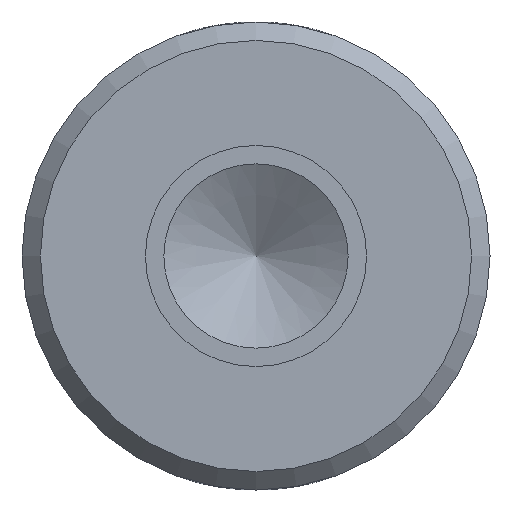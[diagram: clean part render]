
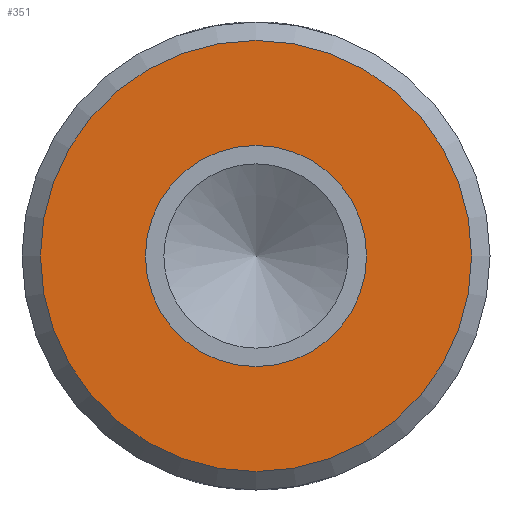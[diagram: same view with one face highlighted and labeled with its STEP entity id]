
A CAD part, front view. The second image highlights one B-rep face of the part: STEP entity #351.
In plain terms, the highlighted planar face has unit normal (0, -1, 0).
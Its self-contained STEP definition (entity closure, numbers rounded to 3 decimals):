
#6 = CARTESIAN_POINT ( 'NONE',  ( 0., 0., 5.85 ) ) ;
#9 = CARTESIAN_POINT ( 'NONE',  ( 0., 0., -3. ) ) ;
#99 = DIRECTION ( 'NONE',  ( 0., 0., 1. ) ) ;
#100 = DIRECTION ( 'NONE',  ( 0., -1., 0. ) ) ;
#101 = CARTESIAN_POINT ( 'NONE',  ( 0., 0., 0. ) ) ;
#109 = DIRECTION ( 'NONE',  ( 0., 0., -1. ) ) ;
#110 = DIRECTION ( 'NONE',  ( 0., -1., 0. ) ) ;
#111 = CARTESIAN_POINT ( 'NONE',  ( 0., 0., 0. ) ) ;
#193 = FACE_BOUND ( 'NONE', #317, .T. ) ;
#215 = FACE_OUTER_BOUND ( 'NONE', #303, .T. ) ;
#227 = VERTEX_POINT ( 'NONE', #6 ) ;
#230 = VERTEX_POINT ( 'NONE', #9 ) ;
#238 = CIRCLE ( 'NONE', #395, 5.85 ) ;
#241 = CIRCLE ( 'NONE', #392, 3. ) ;
#296 = ORIENTED_EDGE ( 'NONE', *, *, #370, .T. ) ;
#303 = EDGE_LOOP ( 'NONE', ( #296 ) ) ;
#317 = EDGE_LOOP ( 'NONE', ( #319 ) ) ;
#319 = ORIENTED_EDGE ( 'NONE', *, *, #367, .F. ) ;
#351 = ADVANCED_FACE ( 'NONE', ( #215, #193 ), #477, .F. ) ;
#367 = EDGE_CURVE ( 'NONE', #230, #230, #241, .T. ) ;
#370 = EDGE_CURVE ( 'NONE', #227, #227, #238, .T. ) ;
#386 = AXIS2_PLACEMENT_3D ( 'NONE', #483, #475, #474 ) ;
#392 = AXIS2_PLACEMENT_3D ( 'NONE', #111, #110, #109 ) ;
#395 = AXIS2_PLACEMENT_3D ( 'NONE', #101, #100, #99 ) ;
#474 = DIRECTION ( 'NONE',  ( 0., 0., 1. ) ) ;
#475 = DIRECTION ( 'NONE',  ( 0., 1., 0. ) ) ;
#477 = PLANE ( 'NONE',  #386 ) ;
#483 = CARTESIAN_POINT ( 'NONE',  ( 0., 0., 0. ) ) ;
